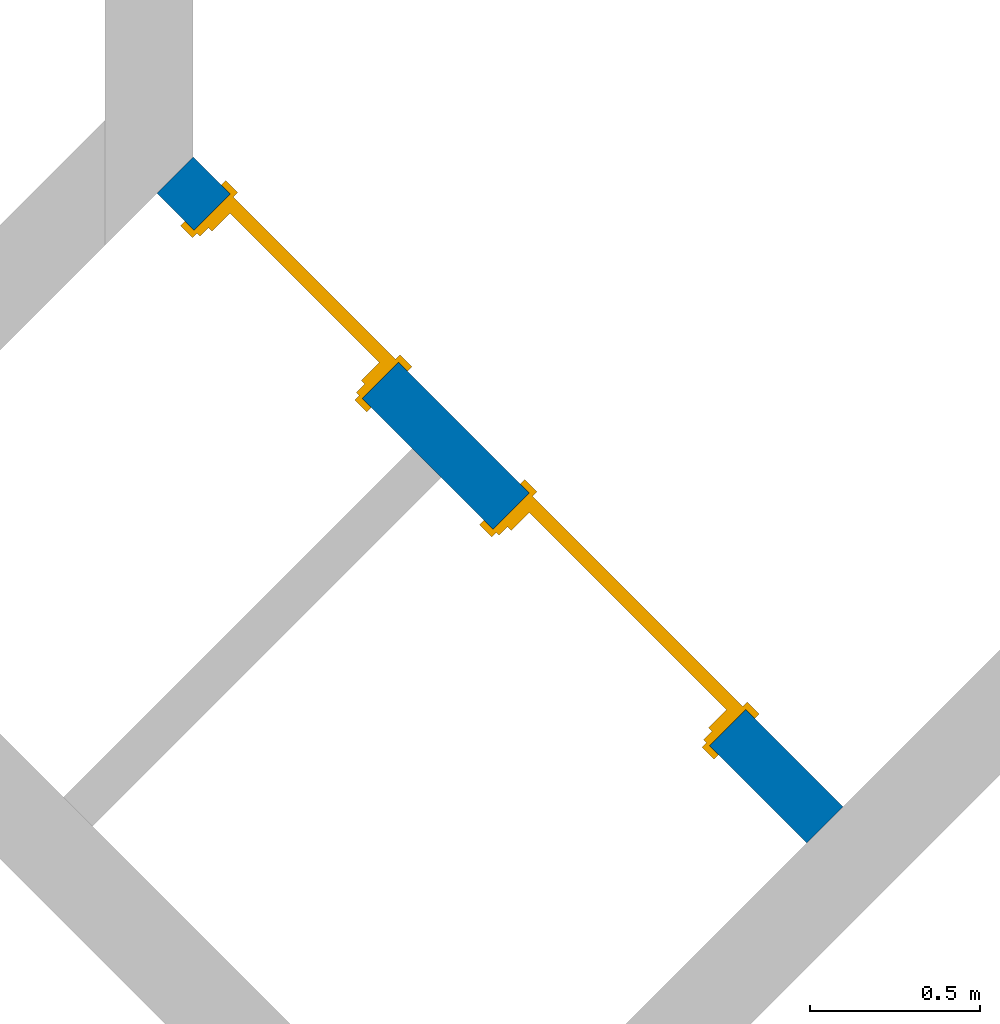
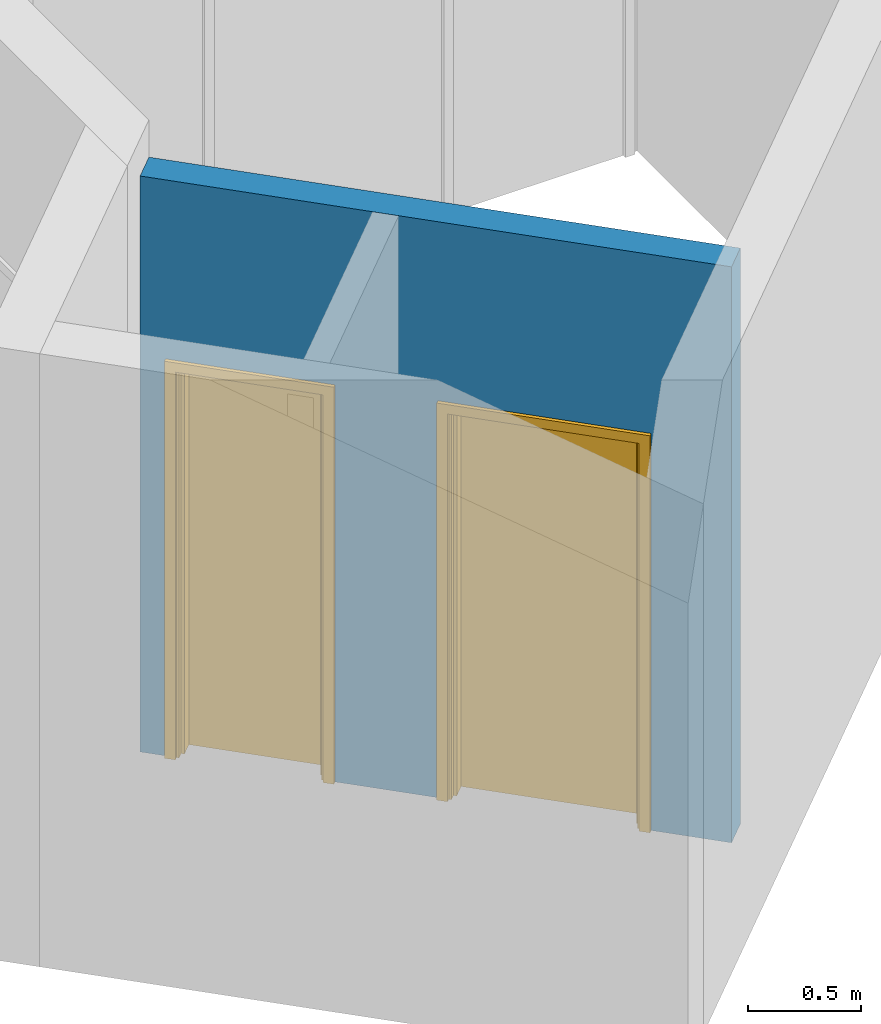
# One storey, part 9 of 25: 2 doors, 1 wall, 2 openings.
"""IFC2X3 building model written with IfcOpenShell, lengths in millimetres."""

from ifc_helpers import new_model, entity, si_unit, converted_unit, derived_unit, money_unit, direction, frame, origin_with_axes, place, context, subcontext, project, spatial, faceted_brep, source, transform, mapped, material, type_object, element, fill, save


model = new_model("IFC2X3")

# Units and contexts
model_context = context("Model", 3, precision=0.01, world=origin_with_axes(), true_north=direction((0.0, 1.0)))
body_context = subcontext(model_context, "Body", "Model", "MODEL_VIEW")
ifc_project = project(units=[si_unit("LENGTHUNIT", "METRE", prefix="MILLI"), si_unit("AREAUNIT", "SQUARE_METRE"), si_unit("VOLUMEUNIT", "CUBIC_METRE"), converted_unit("PLANEANGLEUNIT", "DEGREE", entity("IfcPlaneAngleMeasure", 0.0174532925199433), si_unit("PLANEANGLEUNIT", "RADIAN"), dimensions=[0, 0, 0, 0, 0, 0, 0]), money_unit("USD"), converted_unit("TIMEUNIT", "Year", entity("IfcTimeMeasure", 31557600.0), si_unit("TIMEUNIT", "SECOND"), dimensions=[0, 0, 1, 0, 0, 0, 0]), si_unit("MASSUNIT", "GRAM", prefix="KILO"), si_unit("THERMODYNAMICTEMPERATUREUNIT", "DEGREE_CELSIUS"), si_unit("LUMINOUSINTENSITYUNIT", "LUMEN"), si_unit("ENERGYUNIT", "JOULE", prefix="MEGA"), derived_unit("THERMALCONDUCTANCEUNIT", [(si_unit("POWERUNIT", "WATT"), 1), (si_unit("LENGTHUNIT", "METRE"), -1), (si_unit("THERMODYNAMICTEMPERATUREUNIT", "KELVIN"), -1)]), derived_unit("SPECIFICHEATCAPACITYUNIT", [(si_unit("ENERGYUNIT", "JOULE"), 1), (si_unit("MASSUNIT", "GRAM", prefix="KILO"), -1), (si_unit("THERMODYNAMICTEMPERATUREUNIT", "KELVIN"), -1)]), derived_unit("MASSDENSITYUNIT", [(si_unit("MASSUNIT", "GRAM", prefix="KILO"), 1), (si_unit("VOLUMEUNIT", "CUBIC_METRE"), -1)])], contexts=[model_context])

# Site, building, storey
site_placement = place(None, origin_with_axes())
site = spatial("IfcSite", under=ifc_project, at=site_placement, Name="Site", CompositionType="ELEMENT")
building_placement = place(site_placement, origin_with_axes())
building = spatial("IfcBuilding", under=site, at=building_placement, Name="Building", CompositionType="ELEMENT")
storey_placement = place(building_placement, origin_with_axes())
storey = spatial("IfcBuildingStorey", under=building, at=storey_placement, Name="U ETG", CompositionType="ELEMENT", Elevation=0.0)

# Wall, openings, doors
ifc_material = material(Name="GENERIC - INTERNAL FILLER")
wall_type = type_object("IfcWallType", Name="GENERIC - INTERNAL FILLER 150", PredefinedType="NOTDEFINED")
wall_placement = place(storey_placement, frame((33949.5323964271, 4299.999999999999, 0.0), z_axis=(0.0, 0.0, 1.0), x_axis=(0.7071067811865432, -0.7071067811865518, 0.0)))
wall = element("IfcWall", 1, at=wall_placement, inside=storey, type_object=wall_type, material=ifc_material, Name="SW - 001", context=body_context, shape_type="Brep", body=[
    faceted_brep([(1396.244576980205, 0.0, 2100.0), (1396.244576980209, 0.0, 0.0), (853.221454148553, 0.0, 0.0), (853.221454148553, 0.0, 2100.0), (153.2214541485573, 0.0, 2100.0), (153.2214541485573, 0.0, 0.0), (0.0, 0.0, 0.0), (0.0, 0.0, 3099.999999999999), (2699.999999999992, 0.0, 3100.0), (2699.999999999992, 0.0, 0.0), (2296.244576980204, 0.0, 0.0), (2296.244576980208, 0.0, 2100.0), (1396.244576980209, -150.0000000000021, 2100.0), (1396.244576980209, -150.0000000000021, 0.0), (853.221454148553, -149.9999999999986, 0.0), (853.221454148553, -150.0000000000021, 2100.0), (153.2214541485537, -149.9999999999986, 2100.0), (153.2214541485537, -149.999999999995, 0.0), (0.0, -149.999999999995, 0.0), (0.0, -149.999999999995, 3099.999999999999), (2699.999999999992, -150.0000000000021, 3100.0), (2699.999999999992, -150.0000000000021, 0.0), (2296.244576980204, -150.0000000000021, 0.0), (2296.244576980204, -150.0000000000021, 2100.0)], [[[0, 1, 2, 3, 4, 5, 6, 7, 8, 9, 10, 11]], [[1, 0, 12, 13]], [[1, 13, 14, 2]], [[2, 14, 15, 3]], [[3, 15, 16, 4]], [[4, 16, 17, 5]], [[17, 18, 6, 5]], [[7, 6, 18, 19]], [[19, 20, 8, 7]], [[8, 20, 21, 9]], [[22, 10, 9, 21]], [[11, 10, 22, 23]], [[0, 11, 23, 12]], [[23, 22, 21, 20, 19, 18, 17, 16, 15, 14, 13, 12]]]),
])
opening_1_placement = place(wall_placement, frame((503.2214541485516, 0.0, 0.0), z_axis=(0.0, 0.0, 1.0), x_axis=(1.0, 0.0, 0.0)))
opening_1 = element("IfcOpeningElement", 2, at=opening_1_placement, cuts=wall, Name="DOO - 002", context=body_context, shape_type="Brep", body=[
    faceted_brep([(-349.9999999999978, 1350.999999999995, 2100.0), (350.0000000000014, 1350.999999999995, 2100.0), (349.9999999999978, 1350.999999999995, 0.0), (-349.9999999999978, 1350.999999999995, 0.0), (-387.0000000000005, 1350.999999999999, 0.0), (-387.0000000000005, 1350.999999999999, 2137.0), (386.9999999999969, 1350.999999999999, 2137.0), (386.9999999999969, 1350.999999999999, 0.0), (-349.9999999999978, 0.0, 0.0), (350.0000000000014, 0.0, 0.0), (350.0000000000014, -149.9999999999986, 0.0), (350.0000000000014, -1500.99999999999, 0.0), (-349.9999999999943, -1500.99999999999, 0.0), (-349.9999999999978, -149.999999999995, 0.0), (-386.9999999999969, 0.0, 0.0), (-386.9999999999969, 0.0, 2137.0), (387.0000000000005, 0.0, 2137.0), (387.0000000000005, 0.0, 0.0), (350.0000000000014, 0.0, 2100.0), (350.0000000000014, -149.999999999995, 2100.0), (387.0000000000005, -149.9999999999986, 0.0), (387.0000000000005, -1500.99999999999, 0.0), (387.0000000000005, -1500.99999999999, 2137.0), (-386.9999999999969, -1500.99999999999, 2137.0), (-386.9999999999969, -1500.99999999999, 0.0), (-386.9999999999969, -149.999999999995, 0.0), (-349.9999999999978, 0.0, 2100.0), (-349.9999999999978, -149.999999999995, 2100.0), (-386.9999999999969, -149.999999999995, 2137.0), (387.0000000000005, -149.9999999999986, 2137.0)], [[[0, 1, 2, 3]], [[2, 1, 0, 3, 4, 5, 6, 7]], [[8, 3, 2, 9, 10, 11, 12, 13]], [[3, 8, 14, 4]], [[14, 15, 5, 4]], [[15, 16, 6, 5]], [[16, 17, 7, 6]], [[9, 2, 7, 17]], [[9, 18, 19, 10]], [[11, 10, 20, 21]], [[12, 11, 21, 22, 23, 24]], [[13, 12, 24, 25]], [[26, 8, 13, 27]], [[26, 18, 9, 17, 16, 15, 14, 8]], [[18, 26, 27, 19]], [[10, 19, 27, 13, 25, 28, 29, 20]], [[20, 29, 22, 21]], [[29, 28, 23, 22]], [[28, 25, 24, 23]]]),
])
opening_2_placement = place(wall_placement, frame((1846.244576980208, 0.0, 0.0), z_axis=(0.0, 0.0, 1.0), x_axis=(1.0, 0.0, 0.0)))
opening_2 = element("IfcOpeningElement", 3, at=opening_2_placement, cuts=wall, Name="DOO - 002", context=body_context, shape_type="Brep", body=[
    faceted_brep([(-449.9999999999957, 1350.999999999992, 2100.0), (449.9999999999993, 1350.999999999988, 2100.0), (449.9999999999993, 1350.999999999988, 0.0), (-449.9999999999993, 1350.999999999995, 0.0), (-486.9999999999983, 1350.999999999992, 0.0), (-486.9999999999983, 1350.999999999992, 2137.0), (486.9999999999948, 1350.999999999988, 2137.0), (486.9999999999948, 1350.999999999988, 0.0), (-449.9999999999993, 0.0, 0.0), (449.9999999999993, 0.0, 0.0), (449.9999999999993, -150.0000000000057, 0.0), (449.9999999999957, -1500.999999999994, 0.0), (-450.0000000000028, -1500.999999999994, 0.0), (-449.9999999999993, -150.0000000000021, 0.0), (-486.9999999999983, 0.0, 0.0), (-486.9999999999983, 0.0, 2137.0), (486.9999999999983, 0.0, 2137.0), (486.9999999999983, 0.0, 0.0), (449.9999999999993, 0.0, 2100.0), (449.9999999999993, -150.0000000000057, 2100.0), (486.9999999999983, -150.0000000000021, 0.0), (486.9999999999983, -1500.999999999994, 0.0), (486.9999999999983, -1500.999999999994, 2137.0), (-487.0000000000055, -1500.999999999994, 2137.0), (-487.0000000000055, -1500.999999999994, 0.0), (-487.0000000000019, -150.0000000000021, 0.0), (-450.0000000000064, 0.0, 2100.0), (-449.9999999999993, -150.0000000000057, 2100.0), (-487.0000000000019, -150.0000000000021, 2137.0), (486.9999999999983, -150.0000000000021, 2137.0)], [[[0, 1, 2, 3]], [[2, 1, 0, 3, 4, 5, 6, 7]], [[8, 3, 2, 9, 10, 11, 12, 13]], [[3, 8, 14, 4]], [[14, 15, 5, 4]], [[15, 16, 6, 5]], [[16, 17, 7, 6]], [[9, 2, 7, 17]], [[9, 18, 19, 10]], [[11, 10, 20, 21]], [[12, 11, 21, 22, 23, 24]], [[13, 12, 24, 25]], [[26, 8, 13, 27]], [[26, 18, 9, 17, 16, 15, 14, 8]], [[18, 26, 27, 19]], [[10, 19, 27, 13, 25, 28, 29, 20]], [[20, 29, 22, 21]], [[29, 28, 23, 22]], [[28, 25, 24, 23]]]),
])
door_style_1 = type_object("IfcDoorStyle", Name="Dør", ConstructionType="NOTDEFINED", OperationType="SINGLE_SWING_RIGHT", ParameterTakesPrecedence=False, Sizeable=False)
shared_shape_1 = source(origin_with_axes(), body_context, "Body", "Brep", [
    faceted_brep([(-450.0, -115.0, 0.0), (-425.0, -115.0, 0.0), (-425.0, -150.0, 0.0), (-450.0, -150.0, 0.0), (-450.0, -115.0000000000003, 2100.0), (-425.0, -115.0000000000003, 2075.0), (-425.0, -150.0000000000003, 2075.0), (-450.0, -150.0000000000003, 2100.0)], [[[0, 1, 2, 3]], [[0, 4, 5, 1]], [[1, 5, 6, 2]], [[3, 2, 6, 7]], [[4, 0, 3, 7]], [[5, 4, 7, 6]]]),
    faceted_brep([(450.0, -115.0000000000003, 2100.0), (425.0, -115.0000000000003, 2075.0), (425.0, -150.0000000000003, 2075.0), (450.0, -150.0000000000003, 2100.0), (450.0, -115.0, 0.0), (425.0, -115.0, 0.0), (425.0, -150.0, 0.0), (450.0, -150.0, 0.0)], [[[0, 1, 2, 3]], [[0, 4, 5, 1]], [[1, 5, 6, 2]], [[3, 2, 6, 7]], [[4, 0, 3, 7]], [[5, 4, 7, 6]]]),
    faceted_brep([(-425.0, -115.0000000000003, 2075.0), (425.0, -115.0000000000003, 2075.0), (425.0, -150.0000000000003, 2075.0), (-425.0, -150.0000000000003, 2075.0), (-450.0, -115.0000000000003, 2100.0), (450.0, -115.0000000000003, 2100.0), (450.0, -150.0000000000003, 2100.0), (-450.0, -150.0000000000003, 2100.0)], [[[0, 1, 2, 3]], [[0, 4, 5, 1]], [[1, 5, 6, 2]], [[3, 2, 6, 7]], [[4, 0, 3, 7]], [[5, 4, 7, 6]]]),
    faceted_brep([(-487.0, -169.0, 0.0), (-487.0, -150.0, 0.0), (-437.0, -150.0, 0.0), (-437.0, -169.0, 0.0), (-487.0, -169.0000000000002, 2137.0), (-487.0, -150.0000000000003, 2137.0), (-437.0, -150.0000000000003, 2087.0), (-437.0, -169.0000000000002, 2087.0)], [[[0, 1, 2, 3]], [[4, 5, 1, 0]], [[1, 5, 6, 2]], [[3, 2, 6, 7]], [[0, 3, 7, 4]], [[7, 6, 5, 4]]]),
    faceted_brep([(487.0, -169.0000000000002, 2137.0), (487.0, -150.0000000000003, 2137.0), (437.0, -150.0000000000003, 2087.0), (437.0, -169.0000000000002, 2087.0), (487.0, -169.0, 0.0), (487.0, -150.0, 0.0), (437.0, -150.0, 0.0), (437.0, -169.0, 0.0)], [[[0, 1, 2, 3]], [[4, 5, 1, 0]], [[1, 5, 6, 2]], [[3, 2, 6, 7]], [[0, 3, 7, 4]], [[7, 6, 5, 4]]]),
    faceted_brep([(-487.0, -169.0000000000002, 2137.0), (-487.0, -150.0000000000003, 2137.0), (-437.0, -150.0000000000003, 2087.0), (-437.0, -169.0000000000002, 2087.0), (487.0, -169.0000000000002, 2137.0), (487.0, -150.0000000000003, 2137.0), (437.0, -150.0000000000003, 2087.0), (437.0, -169.0000000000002, 2087.0)], [[[0, 1, 2, 3]], [[4, 5, 1, 0]], [[1, 5, 6, 2]], [[3, 2, 6, 7]], [[0, 3, 7, 4]], [[7, 6, 5, 4]]]),
    faceted_brep([(-487.0, 19.0, 0.0), (-437.0, 19.0, 0.0), (-437.0, 0.0, 0.0), (-487.0, 0.0, 0.0), (-487.0, 18.99999999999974, 2137.0), (-437.0, 18.99999999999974, 2087.0), (-437.0, 0.0, 2087.0), (-487.0, 0.0, 2137.0)], [[[0, 1, 2, 3]], [[0, 4, 5, 1]], [[1, 5, 6, 2]], [[3, 2, 6, 7]], [[4, 0, 3, 7]], [[5, 4, 7, 6]]]),
    faceted_brep([(487.0, 18.99999999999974, 2137.0), (437.0, 18.99999999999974, 2087.0), (437.0, 0.0, 2087.0), (487.0, 0.0, 2137.0), (487.0, 19.0, 0.0), (437.0, 19.0, 0.0), (437.0, 0.0, 0.0), (487.0, 0.0, 0.0)], [[[0, 1, 2, 3]], [[0, 4, 5, 1]], [[1, 5, 6, 2]], [[3, 2, 6, 7]], [[4, 0, 3, 7]], [[5, 4, 7, 6]]]),
    faceted_brep([(-487.0, 18.99999999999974, 2137.0), (-437.0, 18.99999999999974, 2087.0), (-437.0, 0.0, 2087.0), (-487.0, 0.0, 2137.0), (487.0, 18.99999999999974, 2137.0), (437.0, 18.99999999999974, 2087.0), (437.0, 0.0, 2087.0), (487.0, 0.0, 2137.0)], [[[0, 1, 2, 3]], [[0, 4, 5, 1]], [[1, 5, 6, 2]], [[3, 2, 6, 7]], [[4, 0, 3, 7]], [[5, 4, 7, 6]]]),
    faceted_brep([(-450.0, 0.0, 0.0), (-410.0000000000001, 0.0, 0.0), (-410.0000000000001, -115.0, 0.0), (-450.0, -115.0, 0.0), (-450.0, 0.0, 2060.0), (-410.0000000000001, 0.0, 2060.0), (-410.0000000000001, -115.0, 2060.0), (-450.0, -115.0, 2060.0)], [[[0, 1, 2, 3]], [[0, 4, 5, 1]], [[1, 5, 6, 2]], [[3, 2, 6, 7]], [[4, 0, 3, 7]], [[5, 4, 7, 6]]]),
    faceted_brep([(450.0, 0.0, 0.0), (450.0, 0.0, 2060.0), (450.0, -115.0, 2060.0), (450.0, -115.0, 0.0), (410.0000000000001, 0.0, 0.0), (410.0000000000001, 0.0, 2060.0), (410.0000000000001, -115.0, 2060.0), (410.0000000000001, -115.0, 0.0)], [[[0, 1, 2, 3]], [[0, 4, 5, 1]], [[1, 5, 6, 2]], [[3, 2, 6, 7]], [[4, 0, 3, 7]], [[5, 4, 7, 6]]]),
    faceted_brep([(-450.0, 0.0, 2100.0), (-450.0, 0.0, 2060.0), (-450.0, -115.0, 2060.0), (-450.0, -115.0, 2100.0), (450.0, 0.0, 2100.0), (450.0, 0.0, 2060.0), (410.0000000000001, 0.0, 2060.0), (-410.0000000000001, 0.0, 2060.0), (-410.0000000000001, -115.0, 2060.0), (410.0000000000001, -115.0, 2060.0), (450.0, -115.0, 2060.0), (450.0, -115.0, 2100.0)], [[[0, 1, 2, 3]], [[0, 4, 5, 6, 7, 1]], [[1, 7, 8, 2]], [[3, 2, 8, 9, 10, 11]], [[4, 0, 3, 11]], [[5, 4, 11, 10]], [[6, 5, 10, 9]], [[7, 6, 9, 8]]]),
    faceted_brep([(409.9999999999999, 0.0, 0.0), (409.9999999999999, -40.0, 0.0), (-410.0000000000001, -40.0, 0.0), (-410.0000000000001, 0.0, 0.0), (409.9999999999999, 0.0, 2060.0), (409.9999999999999, -40.00000000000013, 2060.0), (-410.0000000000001, -40.00000000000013, 2060.0), (-410.0000000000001, 0.0, 2060.0)], [[[0, 1, 2, 3]], [[4, 5, 1, 0]], [[1, 5, 6, 2]], [[3, 2, 6, 7]], [[0, 3, 7, 4]], [[7, 6, 5, 4]]]),
])
door_1_placement = place(opening_2_placement, frame((-450.0000000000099, 0.0, 0.0), z_axis=(0.0, 0.0, 1.0), x_axis=(1.0, 0.0, 0.0)))
door_1 = element("IfcDoor", 4, at=door_1_placement, inside=storey, type_object=door_style_1, Name="DOO - 002", ObjectType="DOOR", OverallHeight=2100.0, OverallWidth=900.0, context=body_context, shape_type="MappedRepresentation", body=[
    mapped(shared_shape_1, transform((450.0000000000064, 0.0, 0.0))),
])
fill(opening_2, door_1)
door_style_2 = type_object("IfcDoorStyle", Name="Dør", ConstructionType="NOTDEFINED", OperationType="SINGLE_SWING_LEFT", ParameterTakesPrecedence=False, Sizeable=False)
shared_shape_2 = source(origin_with_axes(), body_context, "Body", "Brep", [
    faceted_brep([(350.0, -115.0, 0.0), (350.0, -150.0, 0.0), (324.9999999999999, -150.0, 0.0), (324.9999999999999, -115.0, 0.0), (350.0, -115.0000000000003, 2100.0), (350.0, -150.0000000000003, 2100.0), (324.9999999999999, -150.0000000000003, 2075.0), (324.9999999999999, -115.0000000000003, 2075.0)], [[[0, 1, 2, 3]], [[4, 5, 1, 0]], [[1, 5, 6, 2]], [[3, 2, 6, 7]], [[0, 3, 7, 4]], [[7, 6, 5, 4]]]),
    faceted_brep([(-350.0, -115.0000000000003, 2100.0), (-350.0, -150.0000000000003, 2100.0), (-324.9999999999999, -150.0000000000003, 2075.0), (-324.9999999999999, -115.0000000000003, 2075.0), (-350.0, -115.0, 0.0), (-350.0, -150.0, 0.0), (-324.9999999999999, -150.0, 0.0), (-324.9999999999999, -115.0, 0.0)], [[[0, 1, 2, 3]], [[4, 5, 1, 0]], [[1, 5, 6, 2]], [[3, 2, 6, 7]], [[0, 3, 7, 4]], [[7, 6, 5, 4]]]),
    faceted_brep([(324.9999999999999, -115.0000000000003, 2075.0), (324.9999999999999, -150.0000000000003, 2075.0), (-324.9999999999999, -150.0000000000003, 2075.0), (-324.9999999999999, -115.0000000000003, 2075.0), (350.0, -115.0000000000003, 2100.0), (350.0, -150.0000000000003, 2100.0), (-350.0, -150.0000000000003, 2100.0), (-350.0, -115.0000000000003, 2100.0)], [[[0, 1, 2, 3]], [[4, 5, 1, 0]], [[1, 5, 6, 2]], [[3, 2, 6, 7]], [[0, 3, 7, 4]], [[7, 6, 5, 4]]]),
    faceted_brep([(386.9999999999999, -169.0, 0.0), (336.9999999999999, -169.0, 0.0), (336.9999999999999, -150.0, 0.0), (386.9999999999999, -150.0, 0.0), (386.9999999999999, -169.0000000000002, 2137.0), (336.9999999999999, -169.0000000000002, 2087.0), (336.9999999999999, -150.0000000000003, 2087.0), (386.9999999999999, -150.0000000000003, 2137.0)], [[[0, 1, 2, 3]], [[0, 4, 5, 1]], [[1, 5, 6, 2]], [[3, 2, 6, 7]], [[4, 0, 3, 7]], [[5, 4, 7, 6]]]),
    faceted_brep([(-386.9999999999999, -169.0000000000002, 2137.0), (-336.9999999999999, -169.0000000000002, 2087.0), (-336.9999999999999, -150.0000000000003, 2087.0), (-386.9999999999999, -150.0000000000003, 2137.0), (-386.9999999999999, -169.0, 0.0), (-336.9999999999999, -169.0, 0.0), (-336.9999999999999, -150.0, 0.0), (-386.9999999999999, -150.0, 0.0)], [[[0, 1, 2, 3]], [[0, 4, 5, 1]], [[1, 5, 6, 2]], [[3, 2, 6, 7]], [[4, 0, 3, 7]], [[5, 4, 7, 6]]]),
    faceted_brep([(386.9999999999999, -169.0000000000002, 2137.0), (336.9999999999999, -169.0000000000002, 2087.0), (336.9999999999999, -150.0000000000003, 2087.0), (386.9999999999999, -150.0000000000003, 2137.0), (-386.9999999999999, -169.0000000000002, 2137.0), (-336.9999999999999, -169.0000000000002, 2087.0), (-336.9999999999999, -150.0000000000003, 2087.0), (-386.9999999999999, -150.0000000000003, 2137.0)], [[[0, 1, 2, 3]], [[0, 4, 5, 1]], [[1, 5, 6, 2]], [[3, 2, 6, 7]], [[4, 0, 3, 7]], [[5, 4, 7, 6]]]),
    faceted_brep([(386.9999999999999, 19.0, 0.0), (386.9999999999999, 0.0, 0.0), (336.9999999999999, 0.0, 0.0), (336.9999999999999, 19.0, 0.0), (386.9999999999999, 18.99999999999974, 2137.0), (386.9999999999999, 0.0, 2137.0), (336.9999999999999, 0.0, 2087.0), (336.9999999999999, 18.99999999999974, 2087.0)], [[[0, 1, 2, 3]], [[4, 5, 1, 0]], [[1, 5, 6, 2]], [[3, 2, 6, 7]], [[0, 3, 7, 4]], [[7, 6, 5, 4]]]),
    faceted_brep([(-386.9999999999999, 18.99999999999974, 2137.0), (-386.9999999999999, 0.0, 2137.0), (-336.9999999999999, 0.0, 2087.0), (-336.9999999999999, 18.99999999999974, 2087.0), (-386.9999999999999, 19.0, 0.0), (-386.9999999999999, 0.0, 0.0), (-336.9999999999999, 0.0, 0.0), (-336.9999999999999, 19.0, 0.0)], [[[0, 1, 2, 3]], [[4, 5, 1, 0]], [[1, 5, 6, 2]], [[3, 2, 6, 7]], [[0, 3, 7, 4]], [[7, 6, 5, 4]]]),
    faceted_brep([(387.0, 18.99999999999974, 2137.0), (387.0, 0.0, 2137.0), (336.9999999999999, 0.0, 2087.0), (336.9999999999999, 18.99999999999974, 2087.0), (-387.0, 18.99999999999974, 2137.0), (-387.0, 0.0, 2137.0), (-336.9999999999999, 0.0, 2087.0), (-336.9999999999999, 18.99999999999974, 2087.0)], [[[0, 1, 2, 3]], [[4, 5, 1, 0]], [[1, 5, 6, 2]], [[3, 2, 6, 7]], [[0, 3, 7, 4]], [[7, 6, 5, 4]]]),
    faceted_brep([(350.0, 0.0, 0.0), (350.0, -115.0, 0.0), (310.0, -115.0, 0.0), (310.0, 0.0, 0.0), (350.0, 0.0, 2060.0), (350.0, -115.0, 2060.0), (310.0, -115.0, 2060.0), (310.0, 0.0, 2060.0)], [[[0, 1, 2, 3]], [[4, 5, 1, 0]], [[1, 5, 6, 2]], [[3, 2, 6, 7]], [[0, 3, 7, 4]], [[7, 6, 5, 4]]]),
    faceted_brep([(-350.0, 0.0, 0.0), (-350.0, -115.0, 0.0), (-350.0, -115.0, 2060.0), (-350.0, 0.0, 2060.0), (-310.0, 0.0, 0.0), (-310.0, -115.0, 0.0), (-310.0, -115.0, 2060.0), (-310.0, 0.0, 2060.0)], [[[0, 1, 2, 3]], [[4, 5, 1, 0]], [[1, 5, 6, 2]], [[3, 2, 6, 7]], [[0, 3, 7, 4]], [[7, 6, 5, 4]]]),
    faceted_brep([(350.0, 0.0, 2100.0), (350.0, -115.0, 2100.0), (350.0, -115.0, 2060.0), (350.0, 0.0, 2060.0), (-350.0, 0.0, 2100.0), (-350.0, -115.0, 2100.0), (-350.0, -115.0, 2060.0), (-310.0, -115.0, 2060.0), (310.0, -115.0, 2060.0), (310.0, 0.0, 2060.0), (-310.0, 0.0, 2060.0), (-350.0, 0.0, 2060.0)], [[[0, 1, 2, 3]], [[4, 5, 1, 0]], [[1, 5, 6, 7, 8, 2]], [[3, 2, 8, 9]], [[0, 3, 9, 10, 11, 4]], [[11, 6, 5, 4]], [[10, 7, 6, 11]], [[9, 8, 7, 10]]]),
    faceted_brep([(-309.9999999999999, 0.0, 0.0), (310.0, 0.0, 0.0), (310.0, -40.0, 0.0), (-309.9999999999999, -40.0, 0.0), (-309.9999999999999, 0.0, 2060.0), (310.0, 0.0, 2060.0), (310.0, -40.00000000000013, 2060.0), (-309.9999999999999, -40.00000000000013, 2060.0)], [[[0, 1, 2, 3]], [[0, 4, 5, 1]], [[1, 5, 6, 2]], [[3, 2, 6, 7]], [[4, 0, 3, 7]], [[5, 4, 7, 6]]]),
])
door_2_placement = place(opening_1_placement, frame((-349.9999999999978, 0.0, 0.0), z_axis=(0.0, 0.0, 1.0), x_axis=(1.0, 0.0, 0.0)))
door_2 = element("IfcDoor", 5, at=door_2_placement, inside=storey, type_object=door_style_2, Name="DOO - 002", ObjectType="DOOR", OverallHeight=2100.0, OverallWidth=700.0, context=body_context, shape_type="MappedRepresentation", body=[
    mapped(shared_shape_2, transform((349.9999999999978, 0.0, 0.0))),
])
fill(opening_1, door_2)

save(model, "model.ifc")
